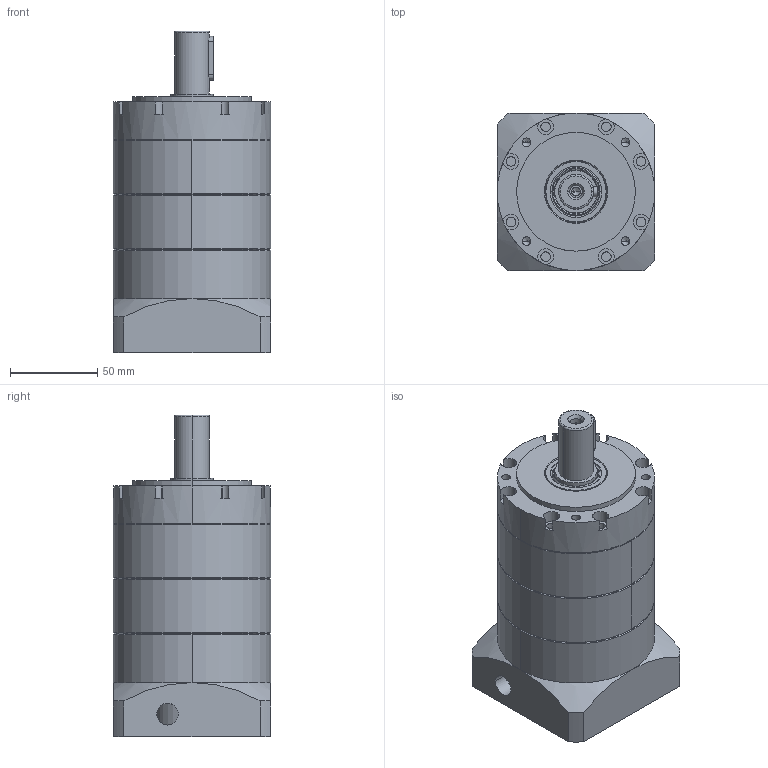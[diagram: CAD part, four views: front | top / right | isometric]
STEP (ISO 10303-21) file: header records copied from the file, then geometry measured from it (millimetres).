
FILE_DESCRIPTION (( 'STEP AP203' ), '1' );
FILE_NAME ('TPG090-L2-19-70-90.STEP', '2024-07-03T05:47:02', ( 'Windows User' ), ( 'P R C' ), 'SwSTEP 2.0', 'SolidWorks 2016', '' );
FILE_SCHEMA (( 'CONFIG_CONTROL_DESIGN' ));
Length unit declared in the file: millimetre
Products named in the file (9): GB／T276-94深沟球轴承61907-2Z; TPG090-内齿圈; TPG090-帣釱; TPG090-薊粣ん_LZ02-22-B8; TC25-35-7_TC-34.9-55-7; 内六角圆柱头螺钉M6×16; A倰す瑩 6x6x25; TPG090-L2-19-70-90; TPG090-奻裔啣
Assembly tree (9 placements, depth 2):
  TPG090-L2-19-70-90
    TPG090-奻裔啣
    GB／T276-94深沟球轴承61907-2Z
    TPG090-内齿圈  x2
    TPG090-帣釱
    TPG090-薊粣ん_LZ02-22-B8
    TC25-35-7_TC-34.9-55-7
    内六角圆柱头螺钉M6×16
    A倰す瑩 6x6x25
Bounding box: 90 x 90 x 184 mm (x, y, z)
Volume: 879347 mm3; surface area: 151786.7 mm2
Topology: 9 solids, 9 shells, 1044 faces, 2821 edges, 1849 vertices
Faces by surface type: plane 486, bspline 161, cylinder 158, sphere 116, torus 73, cone 50
Entity records: 43845 total; most frequent: CARTESIAN_POINT 18023, ORIENTED_EDGE 5546, DIRECTION 4540, EDGE_CURVE 2773, VERTEX_POINT 1829, AXIS2_PLACEMENT_3D 1586, VECTOR 1368, LINE 1368
